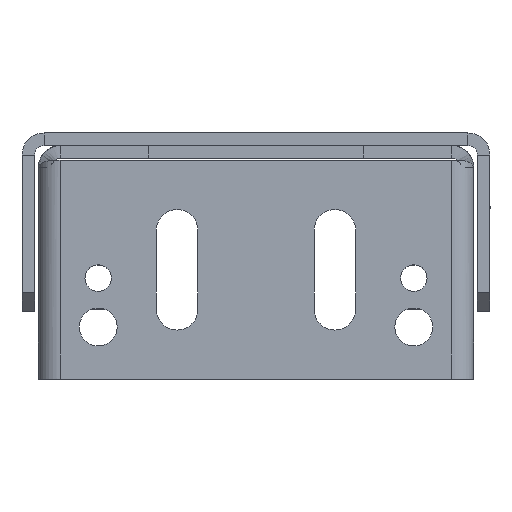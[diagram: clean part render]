
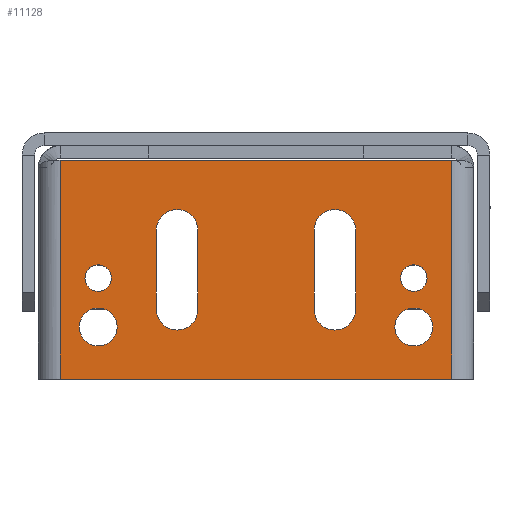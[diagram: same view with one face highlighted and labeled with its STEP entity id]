
A CAD part, left-side view. The second image highlights one B-rep face of the part: STEP entity #11128.
In plain terms, the highlighted planar face has unit normal (-1, 0, 0) as drawn and (0, 0, 1) by its records, which use the part's own axes.
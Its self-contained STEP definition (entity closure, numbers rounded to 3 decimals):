
#11128=ADVANCED_FACE('',(#21406,#21408,#21410,#21412,#21414,#21416,#21418),#21420,
.F.);
#21406=FACE_BOUND('',#21407,.T.);
#21407=EDGE_LOOP('',(#28869,#28870,#28871,#28872));
#21408=FACE_BOUND('',#21409,.T.);
#21409=EDGE_LOOP('',(#28873,#28874,#28875,#28876));
#21410=FACE_BOUND('',#21411,.T.);
#21411=EDGE_LOOP('',(#28877,#28878,#28879,#28880));
#21412=FACE_BOUND('',#21413,.T.);
#21413=EDGE_LOOP('',(#28881));
#21414=FACE_BOUND('',#21415,.T.);
#21415=EDGE_LOOP('',(#28882));
#21416=FACE_BOUND('',#21417,.T.);
#21417=EDGE_LOOP('',(#28883));
#21418=FACE_BOUND('',#21419,.T.);
#21419=EDGE_LOOP('',(#28884));
#21420=PLANE('',#21421);
#21421=AXIS2_PLACEMENT_3D('',#21422,#21423,#21424);
#21422=CARTESIAN_POINT('',(18.5,34.5,0.));
#21423=DIRECTION('',(0.,0.,-1.));
#21424=DIRECTION('',(-1.,0.,0.));
#28869=ORIENTED_EDGE('',*,*,#32521,.F.);
#28870=ORIENTED_EDGE('',*,*,#32522,.T.);
#28871=ORIENTED_EDGE('',*,*,#32523,.T.);
#28872=ORIENTED_EDGE('',*,*,#32524,.F.);
#28873=ORIENTED_EDGE('',*,*,#32525,.F.);
#28874=ORIENTED_EDGE('',*,*,#32526,.F.);
#28875=ORIENTED_EDGE('',*,*,#32527,.F.);
#28876=ORIENTED_EDGE('',*,*,#32426,.F.);
#28877=ORIENTED_EDGE('',*,*,#32528,.F.);
#28878=ORIENTED_EDGE('',*,*,#32529,.F.);
#28879=ORIENTED_EDGE('',*,*,#32530,.F.);
#28880=ORIENTED_EDGE('',*,*,#32430,.F.);
#28881=ORIENTED_EDGE('',*,*,#32465,.F.);
#28882=ORIENTED_EDGE('',*,*,#32467,.F.);
#28883=ORIENTED_EDGE('',*,*,#32469,.F.);
#28884=ORIENTED_EDGE('',*,*,#32471,.F.);
#32426=EDGE_CURVE('',#38314,#38316,#38317,.T.);
#32430=EDGE_CURVE('',#38322,#38324,#38325,.T.);
#32465=EDGE_CURVE('',#38389,#38389,#38390,.T.);
#32467=EDGE_CURVE('',#38393,#38393,#38394,.T.);
#32469=EDGE_CURVE('',#38397,#38397,#38398,.T.);
#32471=EDGE_CURVE('',#38401,#38401,#38402,.T.);
#32521=EDGE_CURVE('',#38491,#38492,#38493,.T.);
#32522=EDGE_CURVE('',#38491,#38494,#38495,.T.);
#32523=EDGE_CURVE('',#38494,#38496,#38497,.T.);
#32524=EDGE_CURVE('',#38492,#38496,#38498,.T.);
#32525=EDGE_CURVE('',#38499,#38314,#38500,.T.);
#32526=EDGE_CURVE('',#38501,#38499,#38502,.T.);
#32527=EDGE_CURVE('',#38316,#38501,#38503,.T.);
#32528=EDGE_CURVE('',#38504,#38322,#38505,.T.);
#32529=EDGE_CURVE('',#38506,#38504,#38507,.T.);
#32530=EDGE_CURVE('',#38324,#38506,#38508,.T.);
#38314=VERTEX_POINT('',#52386);
#38316=VERTEX_POINT('',#52390);
#38317=CIRCLE('',#52391,3.3);
#38322=VERTEX_POINT('',#52404);
#38324=VERTEX_POINT('',#52408);
#38325=CIRCLE('',#52409,3.3);
#38389=VERTEX_POINT('',#52573);
#38390=CIRCLE('',#52574,2.1);
#38393=VERTEX_POINT('',#52583);
#38394=CIRCLE('',#52584,3.);
#38397=VERTEX_POINT('',#52593);
#38398=CIRCLE('',#52594,2.1);
#38401=VERTEX_POINT('',#52603);
#38402=CIRCLE('',#52604,3.);
#38491=VERTEX_POINT('',#52797);
#38492=VERTEX_POINT('',#52798);
#38493=LINE('',#52799,#52800);
#38494=VERTEX_POINT('',#52802);
#38495=LINE('',#52803,#52804);
#38496=VERTEX_POINT('',#52806);
#38497=LINE('',#52807,#52808);
#38498=LINE('',#52810,#52811);
#38499=VERTEX_POINT('',#52813);
#38500=LINE('',#52814,#52815);
#38501=VERTEX_POINT('',#52817);
#38502=CIRCLE('',#52818,3.3);
#38503=LINE('',#52822,#52823);
#38504=VERTEX_POINT('',#52825);
#38505=LINE('',#52826,#52827);
#38506=VERTEX_POINT('',#52829);
#38507=CIRCLE('',#52830,3.3);
#38508=LINE('',#52834,#52835);
#52386=CARTESIAN_POINT('',(5.073,-15.8,0.));
#52390=CARTESIAN_POINT('',(5.073,-9.2,0.));
#52391=AXIS2_PLACEMENT_3D('',#52392,#52393,#52394);
#52392=CARTESIAN_POINT('',(5.073,-12.5,0.));
#52393=DIRECTION('',(0.,0.,1.));
#52394=DIRECTION('',(0.,-1.,0.));
#52404=CARTESIAN_POINT('',(5.073,9.2,0.));
#52408=CARTESIAN_POINT('',(5.073,15.8,0.));
#52409=AXIS2_PLACEMENT_3D('',#52410,#52411,#52412);
#52410=CARTESIAN_POINT('',(5.073,12.5,0.));
#52411=DIRECTION('',(0.,0.,1.));
#52412=DIRECTION('',(0.,-1.,0.));
#52573=CARTESIAN_POINT('',(-0.4,-25.,0.));
#52574=AXIS2_PLACEMENT_3D('',#52575,#52576,#52577);
#52575=CARTESIAN_POINT('',(-2.5,-25.,0.));
#52576=DIRECTION('',(0.,0.,1.));
#52577=DIRECTION('',(-1.,0.,0.));
#52583=CARTESIAN_POINT('',(-7.25,-25.,0.));
#52584=AXIS2_PLACEMENT_3D('',#52585,#52586,#52587);
#52585=CARTESIAN_POINT('',(-10.25,-25.,0.));
#52586=DIRECTION('',(0.,0.,1.));
#52587=DIRECTION('',(-1.,0.,0.));
#52593=CARTESIAN_POINT('',(-0.4,25.,0.));
#52594=AXIS2_PLACEMENT_3D('',#52595,#52596,#52597);
#52595=CARTESIAN_POINT('',(-2.5,25.,0.));
#52596=DIRECTION('',(0.,0.,1.));
#52597=DIRECTION('',(-1.,0.,0.));
#52603=CARTESIAN_POINT('',(-7.25,25.,0.));
#52604=AXIS2_PLACEMENT_3D('',#52605,#52606,#52607);
#52605=CARTESIAN_POINT('',(-10.25,25.,0.));
#52606=DIRECTION('',(0.,0.,1.));
#52607=DIRECTION('',(-1.,0.,0.));
#52797=CARTESIAN_POINT('',(16.146,31.,0.));
#52798=CARTESIAN_POINT('',(16.146,-31.,0.));
#52799=CARTESIAN_POINT('',(16.146,31.,0.));
#52800=VECTOR('',#52801,1.);
#52801=DIRECTION('',(0.,-1.,0.));
#52802=CARTESIAN_POINT('',(-18.5,31.,0.));
#52803=CARTESIAN_POINT('',(16.146,31.,0.));
#52804=VECTOR('',#52805,1.);
#52805=DIRECTION('',(-1.,0.,0.));
#52806=CARTESIAN_POINT('',(-18.5,-31.,0.));
#52807=CARTESIAN_POINT('',(-18.5,31.,0.));
#52808=VECTOR('',#52809,1.);
#52809=DIRECTION('',(0.,-1.,0.));
#52810=CARTESIAN_POINT('',(16.146,-31.,0.));
#52811=VECTOR('',#52812,1.);
#52812=DIRECTION('',(-1.,0.,0.));
#52813=CARTESIAN_POINT('',(-7.427,-15.8,0.));
#52814=CARTESIAN_POINT('',(-7.427,-15.8,0.));
#52815=VECTOR('',#52816,1.);
#52816=DIRECTION('',(1.,0.,0.));
#52817=CARTESIAN_POINT('',(-7.427,-9.2,0.));
#52818=AXIS2_PLACEMENT_3D('',#52819,#52820,#52821);
#52819=CARTESIAN_POINT('',(-7.427,-12.5,0.));
#52820=DIRECTION('',(0.,0.,1.));
#52821=DIRECTION('',(0.,1.,0.));
#52822=CARTESIAN_POINT('',(5.073,-9.2,0.));
#52823=VECTOR('',#52824,1.);
#52824=DIRECTION('',(-1.,0.,0.));
#52825=CARTESIAN_POINT('',(-7.427,9.2,0.));
#52826=CARTESIAN_POINT('',(-7.427,9.2,0.));
#52827=VECTOR('',#52828,1.);
#52828=DIRECTION('',(1.,0.,0.));
#52829=CARTESIAN_POINT('',(-7.427,15.8,0.));
#52830=AXIS2_PLACEMENT_3D('',#52831,#52832,#52833);
#52831=CARTESIAN_POINT('',(-7.427,12.5,0.));
#52832=DIRECTION('',(0.,0.,1.));
#52833=DIRECTION('',(0.,1.,0.));
#52834=CARTESIAN_POINT('',(5.073,15.8,0.));
#52835=VECTOR('',#52836,1.);
#52836=DIRECTION('',(-1.,0.,0.));
